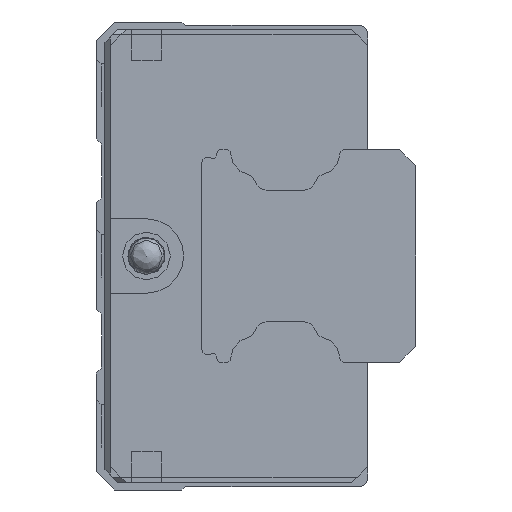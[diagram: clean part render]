
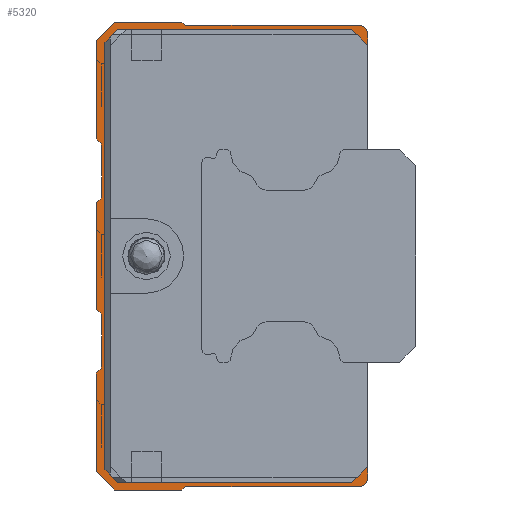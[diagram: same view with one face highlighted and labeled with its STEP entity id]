
A CAD part, left-side view. The second image highlights one B-rep face of the part: STEP entity #5320.
In plain terms, the highlighted planar face has unit normal (-1, 0, 0).
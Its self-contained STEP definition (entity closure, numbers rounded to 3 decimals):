
#71=LINE('',#8192,#411);
#80=LINE('',#8211,#420);
#87=LINE('',#8224,#427);
#113=LINE('',#8280,#453);
#121=LINE('',#8296,#461);
#127=LINE('',#8308,#467);
#152=LINE('',#8359,#492);
#157=LINE('',#8368,#497);
#159=LINE('',#8372,#499);
#163=LINE('',#8379,#503);
#167=LINE('',#8388,#507);
#170=LINE('',#8394,#510);
#174=LINE('',#8406,#514);
#178=LINE('',#8421,#518);
#182=LINE('',#8433,#522);
#185=LINE('',#8439,#525);
#188=LINE('',#8445,#528);
#191=LINE('',#8455,#531);
#194=LINE('',#8461,#534);
#198=LINE('',#8473,#538);
#202=LINE('',#8485,#542);
#205=LINE('',#8495,#545);
#208=LINE('',#8501,#548);
#212=LINE('',#8513,#552);
#216=LINE('',#8525,#556);
#219=LINE('',#8535,#559);
#411=VECTOR('',#6448,1000.);
#420=VECTOR('',#6463,1000.);
#427=VECTOR('',#6474,1000.);
#453=VECTOR('',#6514,1000.);
#461=VECTOR('',#6526,1000.);
#467=VECTOR('',#6538,1000.);
#492=VECTOR('',#6579,1000.);
#497=VECTOR('',#6586,1000.);
#499=VECTOR('',#6590,1000.);
#503=VECTOR('',#6596,1000.);
#507=VECTOR('',#6602,1000.);
#510=VECTOR('',#6607,1000.);
#514=VECTOR('',#6619,1000.);
#518=VECTOR('',#6637,1000.);
#522=VECTOR('',#6649,1000.);
#525=VECTOR('',#6654,1000.);
#528=VECTOR('',#6659,1000.);
#531=VECTOR('',#6668,1000.);
#534=VECTOR('',#6673,1000.);
#538=VECTOR('',#6685,1000.);
#542=VECTOR('',#6697,1000.);
#545=VECTOR('',#6706,1000.);
#548=VECTOR('',#6711,1000.);
#552=VECTOR('',#6723,1000.);
#556=VECTOR('',#6735,1000.);
#559=VECTOR('',#6744,1000.);
#781=PLANE('',#5756);
#1402=ORIENTED_EDGE('',*,*,#2506,.T.);
#1403=ORIENTED_EDGE('',*,*,#2513,.T.);
#1404=ORIENTED_EDGE('',*,*,#2586,.F.);
#1405=ORIENTED_EDGE('',*,*,#2608,.F.);
#1406=ORIENTED_EDGE('',*,*,#2605,.F.);
#1407=ORIENTED_EDGE('',*,*,#2602,.T.);
#1408=ORIENTED_EDGE('',*,*,#2599,.F.);
#1409=ORIENTED_EDGE('',*,*,#2596,.F.);
#1410=ORIENTED_EDGE('',*,*,#2592,.F.);
#1411=ORIENTED_EDGE('',*,*,#2670,.F.);
#1412=ORIENTED_EDGE('',*,*,#2665,.F.);
#1413=ORIENTED_EDGE('',*,*,#2662,.T.);
#1414=ORIENTED_EDGE('',*,*,#2659,.F.);
#1415=ORIENTED_EDGE('',*,*,#2656,.T.);
#1416=ORIENTED_EDGE('',*,*,#2653,.F.);
#1417=ORIENTED_EDGE('',*,*,#2650,.F.);
#1418=ORIENTED_EDGE('',*,*,#2645,.F.);
#1419=ORIENTED_EDGE('',*,*,#2642,.T.);
#1420=ORIENTED_EDGE('',*,*,#2639,.F.);
#1421=ORIENTED_EDGE('',*,*,#2636,.T.);
#1422=ORIENTED_EDGE('',*,*,#2633,.F.);
#1423=ORIENTED_EDGE('',*,*,#2630,.F.);
#1424=ORIENTED_EDGE('',*,*,#2625,.F.);
#1425=ORIENTED_EDGE('',*,*,#2622,.F.);
#1426=ORIENTED_EDGE('',*,*,#2619,.F.);
#1427=ORIENTED_EDGE('',*,*,#2616,.T.);
#1428=ORIENTED_EDGE('',*,*,#2613,.F.);
#1429=ORIENTED_EDGE('',*,*,#2610,.F.);
#1430=ORIENTED_EDGE('',*,*,#2588,.F.);
#1431=ORIENTED_EDGE('',*,*,#2548,.T.);
#1432=ORIENTED_EDGE('',*,*,#2555,.T.);
#1433=ORIENTED_EDGE('',*,*,#2540,.T.);
#1434=ORIENTED_EDGE('',*,*,#2581,.T.);
#1435=ORIENTED_EDGE('',*,*,#2496,.T.);
#2496=EDGE_CURVE('',#3179,#3178,#71,.T.);
#2506=EDGE_CURVE('',#3178,#3185,#80,.T.);
#2513=EDGE_CURVE('',#3185,#3189,#87,.T.);
#2540=EDGE_CURVE('',#3213,#3212,#113,.T.);
#2548=EDGE_CURVE('',#3219,#3218,#121,.T.);
#2555=EDGE_CURVE('',#3218,#3213,#127,.T.);
#2581=EDGE_CURVE('',#3212,#3179,#152,.T.);
#2586=EDGE_CURVE('',#3242,#3189,#157,.T.);
#2588=EDGE_CURVE('',#3219,#3244,#159,.T.);
#2592=EDGE_CURVE('',#3246,#3247,#163,.T.);
#2596=EDGE_CURVE('',#3247,#3250,#167,.T.);
#2599=EDGE_CURVE('',#3250,#3252,#170,.T.);
#2602=EDGE_CURVE('',#3254,#3252,#3687,.T.);
#2605=EDGE_CURVE('',#3254,#3256,#174,.T.);
#2608=EDGE_CURVE('',#3256,#3242,#3689,.T.);
#2610=EDGE_CURVE('',#3244,#3258,#3691,.T.);
#2613=EDGE_CURVE('',#3258,#3260,#178,.T.);
#2616=EDGE_CURVE('',#3262,#3260,#3693,.T.);
#2619=EDGE_CURVE('',#3262,#3264,#182,.T.);
#2622=EDGE_CURVE('',#3264,#3266,#185,.T.);
#2625=EDGE_CURVE('',#3266,#3268,#188,.T.);
#2630=EDGE_CURVE('',#3268,#3272,#191,.T.);
#2633=EDGE_CURVE('',#3272,#3274,#194,.T.);
#2636=EDGE_CURVE('',#3276,#3274,#3697,.T.);
#2639=EDGE_CURVE('',#3276,#3278,#198,.T.);
#2642=EDGE_CURVE('',#3280,#3278,#3699,.T.);
#2645=EDGE_CURVE('',#3280,#3282,#202,.T.);
#2650=EDGE_CURVE('',#3282,#3286,#205,.T.);
#2653=EDGE_CURVE('',#3286,#3288,#208,.T.);
#2656=EDGE_CURVE('',#3290,#3288,#3703,.T.);
#2659=EDGE_CURVE('',#3290,#3292,#212,.T.);
#2662=EDGE_CURVE('',#3294,#3292,#3705,.T.);
#2665=EDGE_CURVE('',#3294,#3296,#216,.T.);
#2670=EDGE_CURVE('',#3296,#3246,#219,.T.);
#3178=VERTEX_POINT('',#8191);
#3179=VERTEX_POINT('',#8193);
#3185=VERTEX_POINT('',#8210);
#3189=VERTEX_POINT('',#8223);
#3212=VERTEX_POINT('',#8279);
#3213=VERTEX_POINT('',#8281);
#3218=VERTEX_POINT('',#8295);
#3219=VERTEX_POINT('',#8297);
#3242=VERTEX_POINT('',#8367);
#3244=VERTEX_POINT('',#8373);
#3246=VERTEX_POINT('',#8380);
#3247=VERTEX_POINT('',#8381);
#3250=VERTEX_POINT('',#8389);
#3252=VERTEX_POINT('',#8395);
#3254=VERTEX_POINT('',#8401);
#3256=VERTEX_POINT('',#8407);
#3258=VERTEX_POINT('',#8416);
#3260=VERTEX_POINT('',#8422);
#3262=VERTEX_POINT('',#8428);
#3264=VERTEX_POINT('',#8434);
#3266=VERTEX_POINT('',#8440);
#3268=VERTEX_POINT('',#8446);
#3272=VERTEX_POINT('',#8456);
#3274=VERTEX_POINT('',#8462);
#3276=VERTEX_POINT('',#8468);
#3278=VERTEX_POINT('',#8474);
#3280=VERTEX_POINT('',#8480);
#3282=VERTEX_POINT('',#8486);
#3286=VERTEX_POINT('',#8496);
#3288=VERTEX_POINT('',#8502);
#3290=VERTEX_POINT('',#8508);
#3292=VERTEX_POINT('',#8514);
#3294=VERTEX_POINT('',#8520);
#3296=VERTEX_POINT('',#8526);
#3687=CIRCLE('',#5712,0.5);
#3689=CIRCLE('',#5716,0.8);
#3691=CIRCLE('',#5719,0.8);
#3693=CIRCLE('',#5723,0.5);
#3697=CIRCLE('',#5733,0.5);
#3699=CIRCLE('',#5737,0.5);
#3703=CIRCLE('',#5745,0.5);
#3705=CIRCLE('',#5749,0.5);
#4072=EDGE_LOOP('',(#1402,#1403,#1404,#1405,#1406,#1407,#1408,#1409,#1410,
#1411,#1412,#1413,#1414,#1415,#1416,#1417,#1418,#1419,#1420,#1421,#1422,
#1423,#1424,#1425,#1426,#1427,#1428,#1429,#1430,#1431,#1432,#1433,#1434,
#1435));
#4700=FACE_BOUND('',#4072,.T.);
#5320=ADVANCED_FACE('',(#4700),#781,.F.);
#5712=AXIS2_PLACEMENT_3D('',#8400,#6612,#6613);
#5716=AXIS2_PLACEMENT_3D('',#8412,#6624,#6625);
#5719=AXIS2_PLACEMENT_3D('',#8415,#6630,#6631);
#5723=AXIS2_PLACEMENT_3D('',#8427,#6642,#6643);
#5733=AXIS2_PLACEMENT_3D('',#8467,#6678,#6679);
#5737=AXIS2_PLACEMENT_3D('',#8479,#6690,#6691);
#5745=AXIS2_PLACEMENT_3D('',#8507,#6716,#6717);
#5749=AXIS2_PLACEMENT_3D('',#8519,#6728,#6729);
#5756=AXIS2_PLACEMENT_3D('',#8538,#6748,#6749);
#6448=DIRECTION('',(0.,-0.707,0.707));
#6463=DIRECTION('',(0.,-1.,0.));
#6474=DIRECTION('',(0.,-0.707,-0.707));
#6514=DIRECTION('',(0.,0.707,0.707));
#6526=DIRECTION('',(0.,0.707,-0.707));
#6538=DIRECTION('',(0.,1.,0.));
#6579=DIRECTION('',(0.,0.,1.));
#6586=DIRECTION('',(0.,0.,-1.));
#6590=DIRECTION('',(0.,0.,-1.));
#6596=DIRECTION('',(0.,-0.707,0.707));
#6602=DIRECTION('',(0.,-1.,0.));
#6607=DIRECTION('',(0.,-0.707,-0.707));
#6612=DIRECTION('',(1.,0.,0.));
#6613=DIRECTION('',(0.,0.,-1.));
#6619=DIRECTION('',(0.,-1.,0.));
#6624=DIRECTION('',(1.,0.,0.));
#6625=DIRECTION('',(0.,0.,-1.));
#6630=DIRECTION('',(1.,0.,0.));
#6631=DIRECTION('',(0.,0.,-1.));
#6637=DIRECTION('',(0.,1.,0.));
#6642=DIRECTION('',(1.,0.,0.));
#6643=DIRECTION('',(0.,0.,-1.));
#6649=DIRECTION('',(0.,0.707,-0.707));
#6654=DIRECTION('',(0.,1.,0.));
#6659=DIRECTION('',(0.,0.707,0.707));
#6668=DIRECTION('',(0.,0.,1.));
#6673=DIRECTION('',(0.,-0.707,0.707));
#6678=DIRECTION('',(1.,0.,0.));
#6679=DIRECTION('',(0.,0.,-1.));
#6685=DIRECTION('',(0.,0.,1.));
#6690=DIRECTION('',(1.,0.,0.));
#6691=DIRECTION('',(0.,0.,-1.));
#6697=DIRECTION('',(0.,0.707,0.707));
#6706=DIRECTION('',(0.,0.,1.));
#6711=DIRECTION('',(0.,-0.707,0.707));
#6716=DIRECTION('',(1.,0.,0.));
#6717=DIRECTION('',(0.,0.,-1.));
#6723=DIRECTION('',(0.,0.,1.));
#6728=DIRECTION('',(1.,0.,0.));
#6729=DIRECTION('',(0.,0.,-1.));
#6735=DIRECTION('',(0.,0.707,0.707));
#6744=DIRECTION('',(0.,0.,1.));
#6748=DIRECTION('',(1.,0.,0.));
#6749=DIRECTION('',(0.,0.,-1.));
#8191=CARTESIAN_POINT('',(-25.85,23.5,21.3));
#8192=CARTESIAN_POINT('',(-25.85,24.7,20.1));
#8193=CARTESIAN_POINT('',(-25.85,24.7,20.1));
#8210=CARTESIAN_POINT('',(-25.85,1.5,21.3));
#8211=CARTESIAN_POINT('',(-25.85,23.5,21.3));
#8223=CARTESIAN_POINT('',(-25.85,0.,19.8));
#8224=CARTESIAN_POINT('',(-25.85,1.5,21.3));
#8279=CARTESIAN_POINT('',(-25.85,24.7,-20.1));
#8280=CARTESIAN_POINT('',(-25.85,23.5,-21.3));
#8281=CARTESIAN_POINT('',(-25.85,23.5,-21.3));
#8295=CARTESIAN_POINT('',(-25.85,1.5,-21.3));
#8296=CARTESIAN_POINT('',(-25.85,0.,-19.8));
#8297=CARTESIAN_POINT('',(-25.85,0.,-19.8));
#8308=CARTESIAN_POINT('',(-25.85,1.5,-21.3));
#8359=CARTESIAN_POINT('',(-25.85,24.7,-20.1));
#8367=CARTESIAN_POINT('',(-25.85,0.,20.9));
#8368=CARTESIAN_POINT('',(-25.85,0.,20.9));
#8372=CARTESIAN_POINT('',(-25.85,0.,20.9));
#8373=CARTESIAN_POINT('',(-25.85,0.,-20.9));
#8379=CARTESIAN_POINT('',(-25.85,25.5,20.3));
#8380=CARTESIAN_POINT('',(-25.85,25.5,20.3));
#8381=CARTESIAN_POINT('',(-25.85,23.8,22.));
#8388=CARTESIAN_POINT('',(-25.85,23.8,22.));
#8389=CARTESIAN_POINT('',(-25.85,17.5,22.));
#8394=CARTESIAN_POINT('',(-25.85,17.5,22.));
#8395=CARTESIAN_POINT('',(-25.85,17.346,21.846));
#8400=CARTESIAN_POINT('',(-25.85,16.993,22.2));
#8401=CARTESIAN_POINT('',(-25.85,16.993,21.7));
#8406=CARTESIAN_POINT('',(-25.85,16.993,21.7));
#8407=CARTESIAN_POINT('',(-25.85,0.8,21.7));
#8412=CARTESIAN_POINT('',(-25.85,0.8,20.9));
#8415=CARTESIAN_POINT('',(-25.85,0.8,-20.9));
#8416=CARTESIAN_POINT('',(-25.85,0.8,-21.7));
#8421=CARTESIAN_POINT('',(-25.85,0.8,-21.7));
#8422=CARTESIAN_POINT('',(-25.85,16.993,-21.7));
#8427=CARTESIAN_POINT('',(-25.85,16.993,-22.2));
#8428=CARTESIAN_POINT('',(-25.85,17.346,-21.846));
#8433=CARTESIAN_POINT('',(-25.85,17.346,-21.846));
#8434=CARTESIAN_POINT('',(-25.85,17.5,-22.));
#8439=CARTESIAN_POINT('',(-25.85,17.5,-22.));
#8440=CARTESIAN_POINT('',(-25.85,23.8,-22.));
#8445=CARTESIAN_POINT('',(-25.85,23.8,-22.));
#8446=CARTESIAN_POINT('',(-25.85,25.5,-20.3));
#8455=CARTESIAN_POINT('',(-25.85,25.5,-20.3));
#8456=CARTESIAN_POINT('',(-25.85,25.5,-11.));
#8461=CARTESIAN_POINT('',(-25.85,25.5,-11.));
#8462=CARTESIAN_POINT('',(-25.85,25.146,-10.646));
#8467=CARTESIAN_POINT('',(-25.85,25.5,-10.293));
#8468=CARTESIAN_POINT('',(-25.85,25.,-10.293));
#8473=CARTESIAN_POINT('',(-25.85,25.,-10.293));
#8474=CARTESIAN_POINT('',(-25.85,25.,-5.707));
#8479=CARTESIAN_POINT('',(-25.85,25.5,-5.707));
#8480=CARTESIAN_POINT('',(-25.85,25.146,-5.354));
#8485=CARTESIAN_POINT('',(-25.85,25.146,-5.354));
#8486=CARTESIAN_POINT('',(-25.85,25.5,-5.));
#8495=CARTESIAN_POINT('',(-25.85,25.5,-5.));
#8496=CARTESIAN_POINT('',(-25.85,25.5,5.));
#8501=CARTESIAN_POINT('',(-25.85,25.5,5.));
#8502=CARTESIAN_POINT('',(-25.85,25.146,5.354));
#8507=CARTESIAN_POINT('',(-25.85,25.5,5.707));
#8508=CARTESIAN_POINT('',(-25.85,25.,5.707));
#8513=CARTESIAN_POINT('',(-25.85,25.,5.707));
#8514=CARTESIAN_POINT('',(-25.85,25.,10.293));
#8519=CARTESIAN_POINT('',(-25.85,25.5,10.293));
#8520=CARTESIAN_POINT('',(-25.85,25.146,10.646));
#8525=CARTESIAN_POINT('',(-25.85,25.146,10.646));
#8526=CARTESIAN_POINT('',(-25.85,25.5,11.));
#8535=CARTESIAN_POINT('',(-25.85,25.5,11.));
#8538=CARTESIAN_POINT('',(-25.85,16.993,22.2));
